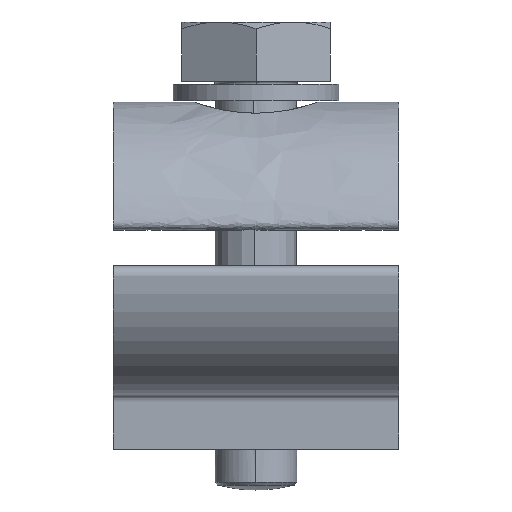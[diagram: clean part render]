
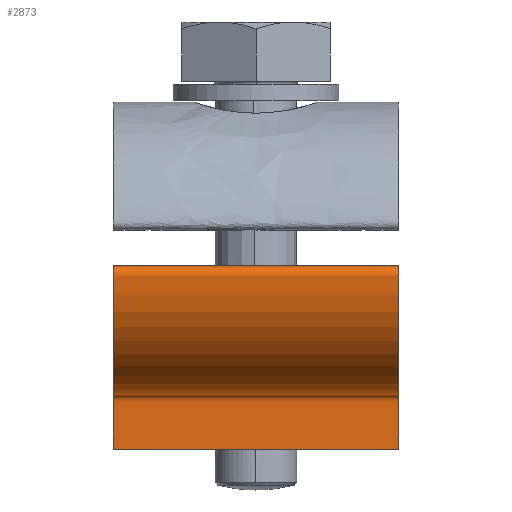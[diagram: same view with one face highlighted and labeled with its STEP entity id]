
A CAD part, left-side view. The second image highlights one B-rep face of the part: STEP entity #2873.
In plain terms, the highlighted free-form (B-spline) face has degree [2, 1] with [13, 2] control points.
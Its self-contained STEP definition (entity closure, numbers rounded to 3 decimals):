
#630=B_SPLINE_CURVE_WITH_KNOTS($,1,(#10565,#10566),.UNSPECIFIED.,.F.,.F.,
(2,2),(0.,21.),.UNSPECIFIED.);
#631=B_SPLINE_CURVE_WITH_KNOTS($,1,(#10593,#10594),.UNSPECIFIED.,.F.,.F.,
(2,2),(0.,21.),.UNSPECIFIED.);
#2873=ADVANCED_FACE($,(#3062),#6488,.T.);
#3062=FACE_OUTER_BOUND($,#3253,.T.);
#3253=EDGE_LOOP($,(#3973,#3974,#3975,#3976));
#3973=ORIENTED_EDGE($,*,*,#5023,.T.);
#3974=ORIENTED_EDGE($,*,*,#5022,.T.);
#3975=ORIENTED_EDGE($,*,*,#5020,.F.);
#3976=ORIENTED_EDGE($,*,*,#5021,.F.);
#5020=EDGE_CURVE($,#6054,#6055,#630,.T.);
#5021=EDGE_CURVE($,#6056,#6054,#6670,.T.);
#5022=EDGE_CURVE($,#6057,#6055,#6671,.T.);
#5023=EDGE_CURVE($,#6056,#6057,#631,.T.);
#6054=VERTEX_POINT($,#10621);
#6055=VERTEX_POINT($,#10622);
#6056=VERTEX_POINT($,#10623);
#6057=VERTEX_POINT($,#10624);
#6488=(
BOUNDED_SURFACE()
B_SPLINE_SURFACE(2,1,((#10595,#10596),(#10597,#10598),(#10599,#10600),(#10601,
#10602),(#10603,#10604),(#10605,#10606),(#10607,#10608),(#10609,#10610),
(#10611,#10612),(#10613,#10614),(#10615,#10616),(#10617,#10618),(#10619,
#10620)),.UNSPECIFIED.,.F.,.F.,.F.)
B_SPLINE_SURFACE_WITH_KNOTS((3,2,2,2,2,2,3),(2,2),(-95.071,-90.56,
-89.56,-75.718,-74.546,-73.375,-73.147),
(0.,21.),.UNSPECIFIED.)
GEOMETRIC_REPRESENTATION_ITEM()
RATIONAL_B_SPLINE_SURFACE(((1.,1.),(1.,1.),(1.,1.),(1.,1.),(1.,1.),(0.719,
0.719),(1.,1.),(0.711,0.711),(1.,1.),
(0.711,0.711),(1.,1.),(1.,1.),
(1.,1.)))
REPRESENTATION_ITEM($)
SURFACE()
);
#6670=(
BOUNDED_CURVE()
B_SPLINE_CURVE(2,(#10567,#10568,#10569,#10570,#10571,#10572,#10573,#10574,
#10575,#10576,#10577,#10578,#10579),.UNSPECIFIED.,.F.,.F.)
B_SPLINE_CURVE_WITH_KNOTS((3,2,2,2,2,2,3),(73.147,73.375,
74.546,75.718,89.56,90.56,95.071),
.UNSPECIFIED.)
CURVE()
GEOMETRIC_REPRESENTATION_ITEM()
RATIONAL_B_SPLINE_CURVE((1.,1.,1.,0.711,1.,0.711,
1.,0.719,1.,1.,1.,1.,1.))
REPRESENTATION_ITEM($)
);
#6671=(
BOUNDED_CURVE()
B_SPLINE_CURVE(2,(#10580,#10581,#10582,#10583,#10584,#10585,#10586,#10587,
#10588,#10589,#10590,#10591,#10592),.UNSPECIFIED.,.F.,.F.)
B_SPLINE_CURVE_WITH_KNOTS((3,2,2,2,2,2,3),(73.147,73.375,
74.546,75.718,89.56,90.56,95.071),
.UNSPECIFIED.)
CURVE()
GEOMETRIC_REPRESENTATION_ITEM()
RATIONAL_B_SPLINE_CURVE((1.,1.,1.,0.711,1.,0.711,
1.,0.719,1.,1.,1.,1.,1.))
REPRESENTATION_ITEM($)
);
#10565=CARTESIAN_POINT($,(-5.,-10.5,-13.));
#10566=CARTESIAN_POINT($,(-5.,10.5,-13.));
#10567=CARTESIAN_POINT($,(-12.974,-10.5,-0.454));
#10568=CARTESIAN_POINT($,(-12.987,-10.5,-0.341));
#10569=CARTESIAN_POINT($,(-12.994,-10.5,-0.228));
#10570=CARTESIAN_POINT($,(-13.036,-10.5,0.514));
#10571=CARTESIAN_POINT($,(-13.778,-10.5,0.481));
#10572=CARTESIAN_POINT($,(-14.52,-10.5,0.447));
#10573=CARTESIAN_POINT($,(-14.495,-10.5,-0.295));
#10574=CARTESIAN_POINT($,(-14.21,-10.5,-9.));
#10575=CARTESIAN_POINT($,(-5.5,-10.5,-9.));
#10576=CARTESIAN_POINT($,(-5.,-10.5,-9.));
#10577=CARTESIAN_POINT($,(-5.,-10.5,-9.51));
#10578=CARTESIAN_POINT($,(-5.,-10.5,-11.255));
#10579=CARTESIAN_POINT($,(-5.,-10.5,-13.));
#10580=CARTESIAN_POINT($,(-12.974,10.5,-0.454));
#10581=CARTESIAN_POINT($,(-12.987,10.5,-0.341));
#10582=CARTESIAN_POINT($,(-12.994,10.5,-0.228));
#10583=CARTESIAN_POINT($,(-13.036,10.5,0.514));
#10584=CARTESIAN_POINT($,(-13.778,10.5,0.481));
#10585=CARTESIAN_POINT($,(-14.52,10.5,0.447));
#10586=CARTESIAN_POINT($,(-14.495,10.5,-0.295));
#10587=CARTESIAN_POINT($,(-14.21,10.5,-9.));
#10588=CARTESIAN_POINT($,(-5.5,10.5,-9.));
#10589=CARTESIAN_POINT($,(-5.,10.5,-9.));
#10590=CARTESIAN_POINT($,(-5.,10.5,-9.51));
#10591=CARTESIAN_POINT($,(-5.,10.5,-11.255));
#10592=CARTESIAN_POINT($,(-5.,10.5,-13.));
#10593=CARTESIAN_POINT($,(-12.974,-10.5,-0.454));
#10594=CARTESIAN_POINT($,(-12.974,10.5,-0.454));
#10595=CARTESIAN_POINT($,(-5.,-10.5,-13.));
#10596=CARTESIAN_POINT($,(-5.,10.5,-13.));
#10597=CARTESIAN_POINT($,(-5.,-10.5,-11.255));
#10598=CARTESIAN_POINT($,(-5.,10.5,-11.255));
#10599=CARTESIAN_POINT($,(-5.,-10.5,-9.51));
#10600=CARTESIAN_POINT($,(-5.,10.5,-9.51));
#10601=CARTESIAN_POINT($,(-5.,-10.5,-9.));
#10602=CARTESIAN_POINT($,(-5.,10.5,-9.));
#10603=CARTESIAN_POINT($,(-5.5,-10.5,-9.));
#10604=CARTESIAN_POINT($,(-5.5,10.5,-9.));
#10605=CARTESIAN_POINT($,(-14.21,-10.5,-9.));
#10606=CARTESIAN_POINT($,(-14.21,10.5,-9.));
#10607=CARTESIAN_POINT($,(-14.495,-10.5,-0.295));
#10608=CARTESIAN_POINT($,(-14.495,10.5,-0.295));
#10609=CARTESIAN_POINT($,(-14.52,-10.5,0.447));
#10610=CARTESIAN_POINT($,(-14.52,10.5,0.447));
#10611=CARTESIAN_POINT($,(-13.778,-10.5,0.481));
#10612=CARTESIAN_POINT($,(-13.778,10.5,0.481));
#10613=CARTESIAN_POINT($,(-13.036,-10.5,0.514));
#10614=CARTESIAN_POINT($,(-13.036,10.5,0.514));
#10615=CARTESIAN_POINT($,(-12.994,-10.5,-0.228));
#10616=CARTESIAN_POINT($,(-12.994,10.5,-0.228));
#10617=CARTESIAN_POINT($,(-12.987,-10.5,-0.341));
#10618=CARTESIAN_POINT($,(-12.987,10.5,-0.341));
#10619=CARTESIAN_POINT($,(-12.974,-10.5,-0.454));
#10620=CARTESIAN_POINT($,(-12.974,10.5,-0.454));
#10621=CARTESIAN_POINT($,(-5.,-10.5,-13.));
#10622=CARTESIAN_POINT($,(-5.,10.5,-13.));
#10623=CARTESIAN_POINT($,(-12.974,-10.5,-0.454));
#10624=CARTESIAN_POINT($,(-12.974,10.5,-0.454));
